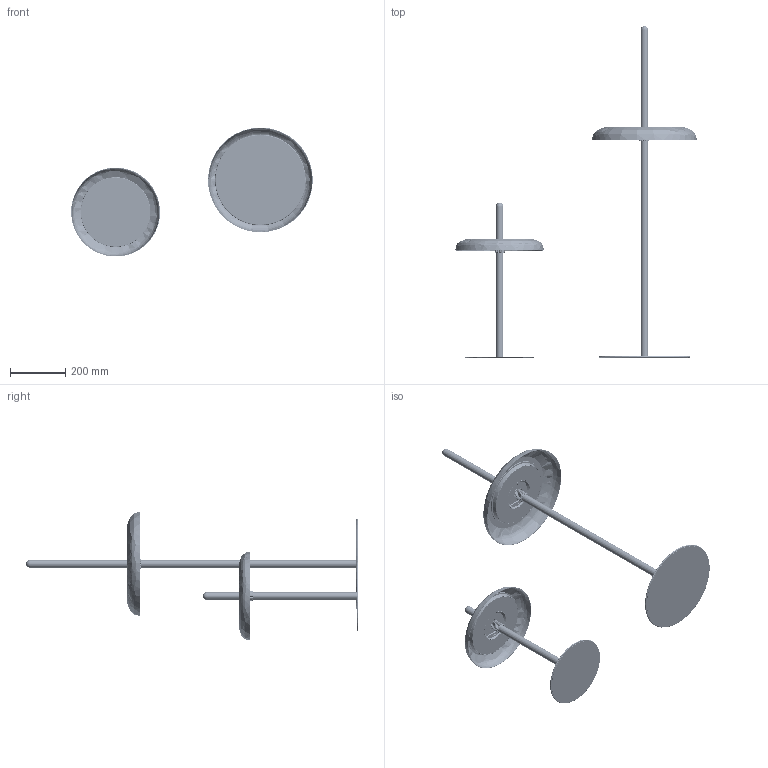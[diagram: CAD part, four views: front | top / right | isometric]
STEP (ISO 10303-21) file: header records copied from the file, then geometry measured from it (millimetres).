
FILE_DESCRIPTION (( 'STEP AP214' ), '1' );
FILE_NAME ('Pablo Designs - Nivel Table and Floor - Share CAD - 120122.STEP', '2022-12-02T00:03:23', ( '' ), ( '' ), 'SwSTEP 2.0', 'SolidWorks 2019', '' );
FILE_SCHEMA (( 'AUTOMOTIVE_DESIGN' ));
Length unit declared in the file: inch
Products named in the file (69): Niv_l, Floor Steel Shade, V5.1, 15in_15in, Proportional from 16in.STEP; CAR-0501 Carousel, Reflector_1.STEP; CAR-0802 Carousel, Magnet_1; CAR-0402 Nivel, Tension.STEP; CAR-0706 NIVEL, Touch PCB Tape; EC-0806 M3x4 十字盘头平尾自攻带垫片（DAJ00741）_1; Niv_l, Floor, Post_1200mm.STEP; Nivél, Table, Post, 22in; EC-0806 M3x4 ________________________DAJ00741___1.STEP; CAR-0505 Carousel, Side Reflector_1.STEP; 95596A610_TAPPING INSERTS FOR SOFTWOOD_95596A610; CAR-0204 Carousel, Top Cap_1; TLA-0803 M2x3 ___________________1.STEP; CAR-0204 Carousel, Top Cap_1.STEP; CAR-0604 Nivel, Touch Board; CAR-0706 NIVEL, Touch PCB Tape.STEP; CAR-0701 Carousel, LED Thermal Tape_1; CAR-0208 Nivel, Tension Sleeve.STEP; CAR-0203 Carousel, Main Cover_NIVEL; Niv_l, Base, V5_O13in x 5mm x F2mm.STEP; PSA-0804 M3X5________________.STEP; PSA-0804 M3X5沉头十字机牙螺丝; CAR-0207 Nivel, Induction Cap; CAR-0503 Carousel, Diffuser Film_1; CAR-0203 Carousel, Main Cover_NIVEL.STEP; CAR-0803 Plastic Washer WS7-3.6-3.2_1.STEP; 91294A284_BLACK ALLOY STEEL FLAT-HEAD SOCKET CAP SCREW M8x20x1.25_91294A284; Nivél, Base, V4_O10in x 4mm x F1.5mm; Nivél, Base, Pad, V2_O10in; CAR-0604 Nivel, Touch Board.STEP; CAR-0502 Carousel, PMMA LGP_1.STEP; CAR-0801 Carousel, Indicator Lens_1; CAR-0801 Carousel, Indicator Lens_1.STEP; CAR-0606 Nivel, Battery 5000mA 6060100; CAR-0301 Carousel, Heatsink_1.STEP; CAR-0701 Carousel, LED Thermal Tape_1.STEP; 95596A610_TAPPING INSERTS FOR SOFTWOOD_95596A610.STEP; CAR-0502 Carousel, PMMA LGP_1; CAR-0402 Nivel, Tension; CAR-0503 Carousel, Diffuser Film_1.STEP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
Assembly tree (105 placements, depth 4):
  Pablo Designs - Nivel Table and Floor - Share CAD - 120122
    Nivél, Table, V16_V10, 35in Height
      Nivél, Base, V4_O10in x 4mm x F1.5mm
      Nivél, Base, Pad, V2_O10in
      NIVEL, Head Assy 20220121
        CAR-0203 Carousel, Main Cover_NIVEL
        CAR-0204 Carousel, Top Cap_1
        CAR-0207 Nivel, Induction Cap
        CAR-0208 Nivel, Tension Sleeve
        CAR-0301 Carousel, Heatsink_1
        CAR-0401 Nivel, Head Collar
        CAR-0402 Nivel, Tension
        CAR-0501 Carousel, Reflector_1
        CAR-0502 Carousel, PMMA LGP_1
        CAR-0503 Carousel, Diffuser Film_1
        CAR-0209 Carousel, Lens_1
        CAR-0505 Carousel, Side Reflector_1
        CAR-0601 Carousel, Flexible LED Board_1
        CAR-0604 Nivel, Touch Board
        CAR-0605  Nivel，Driver Board_預設
        CAR-0606 Nivel, Battery 5000mA 6060100  x3
        CAR-0701 Carousel, LED Thermal Tape_1
        CAR-0706 NIVEL, Touch PCB Tape
        CAR-0705 Nivel, Battery tape  x3
        CAR-0801 Carousel, Indicator Lens_1
        CAR-0802 Carousel, Magnet_1  x4
        CAR-0803 Plastic Washer WS7-3.6-3.2_1  x2
        EC-0806 M3x4 十字盘头平尾自攻带垫片（DAJ00741）_1  x3
        TLA-0803 M2x3 盘头自攻螺丝带垫片_1  x2
        PSA-0804 M3X5沉头十字机牙螺丝  x3
        TLA-0810 ST2.9 X 9.5 ｳﾁﾍｷﾊｮﾗﾖｼ簧ｲﾗﾔｹ･ﾂﾝﾋｿ (GB-T 846-1985)_1  x6
      95596A610_TAPPING INSERTS FOR SOFTWOOD_95596A610
      91294A284_BLACK ALLOY STEEL FLAT-HEAD SOCKET CAP SCREW M8x20x1.25_91294A284
      Nivél, Table, Shade Proportional Reduction_3
      Nivél, Table, Post, 22in
        Nivél, Table, Post, 22in_Niv‚l Post Top
        95596A610_TAPPING INSERTS FOR SOFTWOOD_95596A610
    Nivél, Floor, V14.STEP
      NIVEL, Head Assy 20220121.STEP
        CAR-0203 Carousel, Main Cover_NIVEL.STEP
        CAR-0204 Carousel, Top Cap_1.STEP
        CAR-0207 Nivel, Induction Cap.STEP
        CAR-0208 Nivel, Tension Sleeve.STEP
        CAR-0301 Carousel, Heatsink_1.STEP
        CAR-0401 Nivel, Head Collar.STEP
        CAR-0402 Nivel, Tension.STEP
        CAR-0501 Carousel, Reflector_1.STEP
        CAR-0502 Carousel, PMMA LGP_1.STEP
        CAR-0503 Carousel, Diffuser Film_1.STEP
        CAR-0209 Carousel, Lens_1.STEP
        CAR-0505 Carousel, Side Reflector_1.STEP
        CAR-0601 Carousel, Flexible LED Board_1.STEP
        CAR-0604 Nivel, Touch Board.STEP
        CAR-0605  Nivel__Driver Board__A_O.STEP
        CAR-0606 Nivel, Battery 5000mA 6060100.STEP  x3
        CAR-0701 Carousel, LED Thermal Tape_1.STEP
        CAR-0706 NIVEL, Touch PCB Tape.STEP
        CAR-0705 Nivel, Battery tape.STEP  x3
        CAR-0801 Carousel, Indicator Lens_1.STEP
        CAR-0802 Carousel, Magnet_1.STEP  x4
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Bounding box: 878.1 x 1206 x 468.63 mm (x, y, z)
Volume: 3174973.8 mm3; surface area: 2446089.2 mm2
Topology: 114 solids, 114 shells, 15754 faces, 42261 edges, 27477 vertices
Faces by surface type: plane 9554, cylinder 2826, cone 1655, bspline 1539, torus 170, sphere 10
Entity records: 411320 total; most frequent: CARTESIAN_POINT 184855, ORIENTED_EDGE 49968, DIRECTION 41664, EDGE_CURVE 24984, VERTEX_POINT 16330, AXIS2_PLACEMENT_3D 13913, VECTOR 13838, LINE 13838
